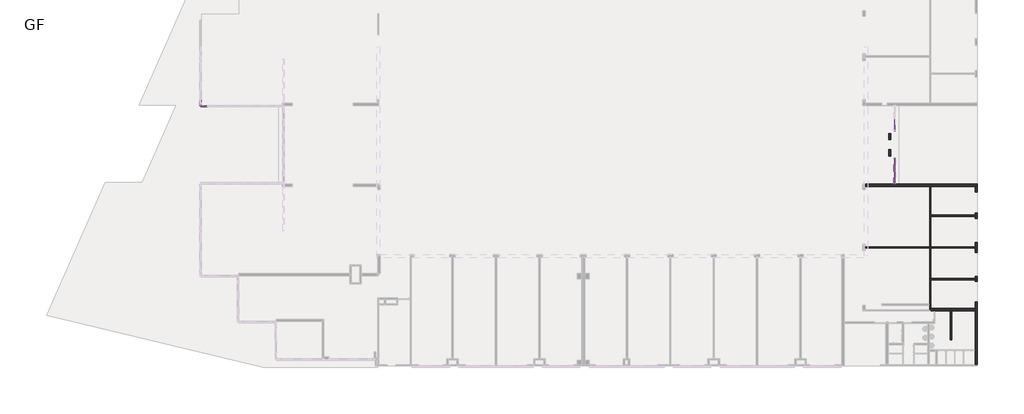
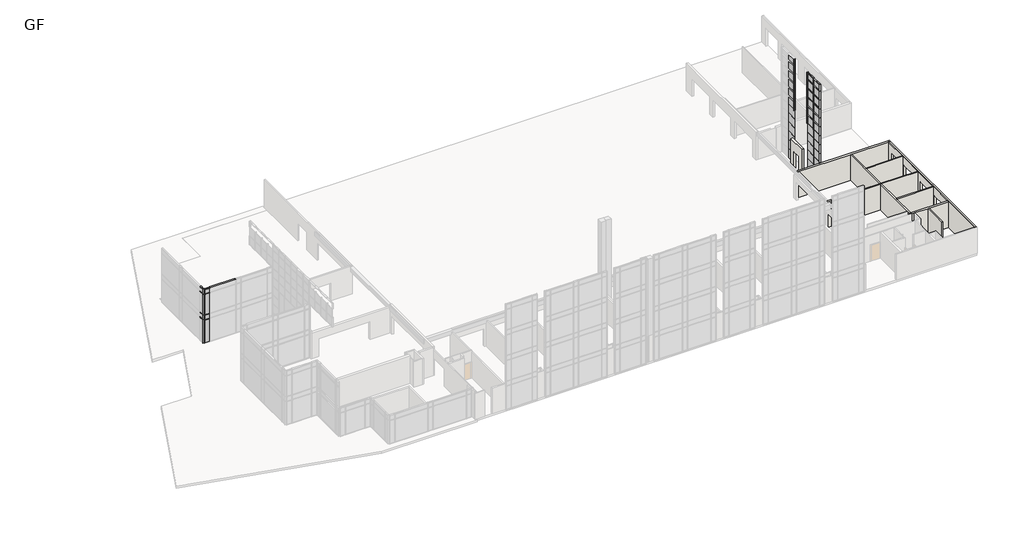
# One storey, part 12 of 23: 55 members, 40 plates, 9 walls.
"""IFC4 building model written with IfcOpenShell, lengths in millimetres."""

from ifc_helpers import new_model, si_unit, frame, origin, place, context, project, spatial, polyline, outline, extrude, faceted_brep, transform, mapped, element, save
from components import rectangular_mullion_50_x_150mm_64d38db8, rectangular_mullion_50_x_150mm_68b3818a, rectangular_mullion_50_x_150mm_6588f46c, rectangular_mullion_50_x_150mm_73a7075e, rectangular_mullion_50_x_150mm_35d6a770, rectangular_mullion_50_x_150mm_d99dc9be, rectangular_mullion_50_x_150mm_3ddb3363, rectangular_mullion_50_x_150mm_b8eab333, rectangular_mullion_50_x_150mm_1f222d30, v_corner_mullion_v_mullion_1_6526e4b7, v_corner_mullion_v_mullion_1_4652a198, v_corner_mullion_v_mullion_1_67d7d202, v_corner_mullion_v_mullion_1_71accf86, system_panel_glazed_24812111, system_panel_glazed_e5239730, system_panel_glazed_a7232eb8, system_panel_glazed_1d396b08, system_panel_glazed_262f750d, system_panel_glazed_e7443a08, system_panel_glazed_fee3e825, system_panel_glazed_f3b0fd96, system_panel_glazed_b53cd975, system_panel_glazed_d327379d, system_panel_glazed_85ae8ed3, system_panel_glazed_ad5ec275

model = new_model("IFC4")

# Units and contexts
model_context = context("Model", 3, world=origin())
ifc_project = project(units=[si_unit("LENGTHUNIT", "METRE", prefix="MILLI")], contexts=[model_context])

# Site, building, storey
site = spatial("IfcSite", under=ifc_project)
building = spatial("IfcBuilding", under=site)
storey = spatial("IfcBuildingStorey", under=building, Name="GF", Elevation=900.0)

# Members
placement = place(None, origin())
rectangular_mullion_50_x_150mm_shape = rectangular_mullion_50_x_150mm_64d38db8(model_context)
element("IfcMember", 1, ObjectType="Rectangular Mullion : 50 x 150mm", at=placement, inside=storey, context=model_context, shape_type="MappedRepresentation", body=[
    mapped(rectangular_mullion_50_x_150mm_shape, transform((-39612.5865899, 1922.3851347, 8200.0), x_axis=(0.0, 0.0, 1.0), y_axis=(-1.0, 0.0, 0.0), z_axis=(0.0, -1.0, 0.0))),
])
element("IfcMember", 2, ObjectType="Rectangular Mullion : 50 x 150mm", at=placement, inside=storey, context=model_context, shape_type="MappedRepresentation", body=[
    mapped(rectangular_mullion_50_x_150mm_shape, transform((-39512.5865899, 1822.3851347, 8200.0), x_axis=(0.0, 0.0, 1.0), y_axis=(0.0, 1.0, 0.0), z_axis=(-1.0, 0.0, 0.0))),
])
rectangular_mullion_50_x_150mm_2_shape = rectangular_mullion_50_x_150mm_68b3818a(model_context)
element("IfcMember", 3, ObjectType="Rectangular Mullion : 50 x 150mm", at=placement, inside=storey, context=model_context, shape_type="MappedRepresentation", body=[
    mapped(rectangular_mullion_50_x_150mm_2_shape, transform((-39512.5865899, 1822.3851347, 7525.0), x_axis=(0.0, 0.0, 1.0), y_axis=(0.0, 1.0, 0.0), z_axis=(-1.0, 0.0, 0.0))),
])
element("IfcMember", 4, ObjectType="Rectangular Mullion : 50 x 150mm", at=placement, inside=storey, context=model_context, shape_type="MappedRepresentation", body=[
    mapped(rectangular_mullion_50_x_150mm_2_shape, transform((-39512.5865899, 1822.3851347, 4075.0), x_axis=(0.0, 0.0, 1.0), y_axis=(0.0, 1.0, 0.0), z_axis=(-1.0, 0.0, 0.0))),
])
element("IfcMember", 5, ObjectType="Rectangular Mullion : 50 x 150mm", at=placement, inside=storey, context=model_context, shape_type="MappedRepresentation", body=[
    mapped(rectangular_mullion_50_x_150mm_2_shape, transform((-39512.5865899, 1822.3851347, 4725.0), x_axis=(0.0, 0.0, 1.0), y_axis=(0.0, 1.0, 0.0), z_axis=(-1.0, 0.0, 0.0))),
])
element("IfcMember", 6, ObjectType="Rectangular Mullion : 50 x 150mm", at=placement, inside=storey, context=model_context, shape_type="MappedRepresentation", body=[
    mapped(rectangular_mullion_50_x_150mm_2_shape, transform((-39612.5865899, 1922.3851347, 7525.0), x_axis=(0.0, 0.0, 1.0), y_axis=(-1.0, 0.0, 0.0), z_axis=(0.0, -1.0, 0.0))),
])
element("IfcMember", 7, ObjectType="Rectangular Mullion : 50 x 150mm", at=placement, inside=storey, context=model_context, shape_type="MappedRepresentation", body=[
    mapped(rectangular_mullion_50_x_150mm_2_shape, transform((-39612.5865899, 1922.3851347, 4725.0), x_axis=(0.0, 0.0, 1.0), y_axis=(-1.0, 0.0, 0.0), z_axis=(0.0, -1.0, 0.0))),
])
element("IfcMember", 8, ObjectType="Rectangular Mullion : 50 x 150mm", at=placement, inside=storey, context=model_context, shape_type="MappedRepresentation", body=[
    mapped(rectangular_mullion_50_x_150mm_2_shape, transform((-39612.5865899, 1922.3851347, 4075.0), x_axis=(0.0, 0.0, 1.0), y_axis=(-1.0, 0.0, 0.0), z_axis=(0.0, -1.0, 0.0))),
])
rectangular_mullion_50_x_150mm_3_shape = rectangular_mullion_50_x_150mm_6588f46c(model_context)
element("IfcMember", 9, ObjectType="Rectangular Mullion : 50 x 150mm", at=placement, inside=storey, context=model_context, shape_type="MappedRepresentation", body=[
    mapped(rectangular_mullion_50_x_150mm_3_shape, transform((34137.4134101, -856.1572845, 10500.0), x_axis=(0.0, -1.0, 0.0), y_axis=(1.0, 0.0, 0.0), z_axis=(0.0, 0.0, 1.0))),
])
element("IfcMember", 10, ObjectType="Rectangular Mullion : 50 x 150mm", at=placement, inside=storey, context=model_context, shape_type="MappedRepresentation", body=[
    mapped(rectangular_mullion_50_x_150mm_3_shape, transform((34137.4134101, -856.1572845, 11700.0), x_axis=(0.0, -1.0, 0.0), y_axis=(1.0, 0.0, 0.0), z_axis=(0.0, 0.0, 1.0))),
])
element("IfcMember", 11, ObjectType="Rectangular Mullion : 50 x 150mm", at=placement, inside=storey, context=model_context, shape_type="MappedRepresentation", body=[
    mapped(rectangular_mullion_50_x_150mm_3_shape, transform((34137.4134101, -856.1572845, 12900.0), x_axis=(0.0, -1.0, 0.0), y_axis=(1.0, 0.0, 0.0), z_axis=(0.0, 0.0, 1.0))),
])
element("IfcMember", 12, ObjectType="Rectangular Mullion : 50 x 150mm", at=placement, inside=storey, context=model_context, shape_type="MappedRepresentation", body=[
    mapped(rectangular_mullion_50_x_150mm_3_shape, transform((34137.4134101, -856.1572845, 14100.0), x_axis=(0.0, -1.0, 0.0), y_axis=(1.0, 0.0, 0.0), z_axis=(0.0, 0.0, 1.0))),
])
rectangular_mullion_50_x_150mm_4_shape = rectangular_mullion_50_x_150mm_73a7075e(model_context)
element("IfcMember", 13, ObjectType="Rectangular Mullion : 50 x 150mm", at=placement, inside=storey, context=model_context, shape_type="MappedRepresentation", body=[
    mapped(rectangular_mullion_50_x_150mm_4_shape, transform((-38862.5865899, 1822.3851347, 8200.0), x_axis=(0.0, 0.0, 1.0), y_axis=(0.0, 1.0, 0.0), z_axis=(-1.0, 0.0, 0.0))),
])
rectangular_mullion_50_x_150mm_5_shape = rectangular_mullion_50_x_150mm_35d6a770(model_context)
element("IfcMember", 14, ObjectType="Rectangular Mullion : 50 x 150mm", at=placement, inside=storey, context=model_context, shape_type="MappedRepresentation", body=[
    mapped(rectangular_mullion_50_x_150mm_5_shape, transform((34137.4134101, -856.1572845, 15000.0), x_axis=(0.0, -1.0, 0.0), y_axis=(1.0, 0.0, 0.0), z_axis=(0.0, 0.0, 1.0))),
])
rectangular_mullion_50_x_150mm_6_shape = rectangular_mullion_50_x_150mm_d99dc9be(model_context)
element("IfcMember", 15, ObjectType="Rectangular Mullion : 50 x 150mm", at=placement, inside=storey, context=model_context, shape_type="MappedRepresentation", body=[
    mapped(rectangular_mullion_50_x_150mm_6_shape, transform((34137.4134101, -5095.1360749, 9300.0), x_axis=(0.0, -1.0, 0.0), y_axis=(-1.0, 0.0, 0.0), z_axis=(0.0, 0.0, -1.0))),
])
element("IfcMember", 16, ObjectType="Rectangular Mullion : 50 x 150mm", at=placement, inside=storey, context=model_context, shape_type="MappedRepresentation", body=[
    mapped(rectangular_mullion_50_x_150mm_6_shape, transform((34137.4134101, -5095.1360749, 10500.0), x_axis=(0.0, -1.0, 0.0), y_axis=(-1.0, 0.0, 0.0), z_axis=(0.0, 0.0, -1.0))),
])
element("IfcMember", 17, ObjectType="Rectangular Mullion : 50 x 150mm", at=placement, inside=storey, context=model_context, shape_type="MappedRepresentation", body=[
    mapped(rectangular_mullion_50_x_150mm_6_shape, transform((34137.4134101, -5095.1360749, 11700.0), x_axis=(0.0, -1.0, 0.0), y_axis=(-1.0, 0.0, 0.0), z_axis=(0.0, 0.0, -1.0))),
])
element("IfcMember", 18, ObjectType="Rectangular Mullion : 50 x 150mm", at=placement, inside=storey, context=model_context, shape_type="MappedRepresentation", body=[
    mapped(rectangular_mullion_50_x_150mm_6_shape, transform((34137.4134101, -5095.1360749, 12900.0), x_axis=(0.0, -1.0, 0.0), y_axis=(-1.0, 0.0, 0.0), z_axis=(0.0, 0.0, -1.0))),
])
rectangular_mullion_50_x_150mm_7_shape = rectangular_mullion_50_x_150mm_3ddb3363(model_context)
element("IfcMember", 19, ObjectType="Rectangular Mullion : 50 x 150mm", at=placement, inside=storey, context=model_context, shape_type="MappedRepresentation", body=[
    mapped(rectangular_mullion_50_x_150mm_7_shape, transform((34137.4134101, -5095.1360749, 14100.0), x_axis=(0.0, -1.0, 0.0), y_axis=(-1.0, 0.0, 0.0), z_axis=(0.0, 0.0, -1.0))),
])
element("IfcMember", 20, ObjectType="Rectangular Mullion : 50 x 150mm", at=placement, inside=storey, context=model_context, shape_type="MappedRepresentation", body=[
    mapped(rectangular_mullion_50_x_150mm_5_shape, transform((34137.4134101, -3719.1572845, 15000.0), x_axis=(0.0, 1.0, 0.0), y_axis=(-1.0, 0.0, 0.0), z_axis=(0.0, 0.0, 1.0))),
])
element("IfcMember", 21, ObjectType="Rectangular Mullion : 50 x 150mm", at=placement, inside=storey, context=model_context, shape_type="MappedRepresentation", body=[
    mapped(rectangular_mullion_50_x_150mm_3_shape, transform((34137.4134101, -3719.1572845, 10500.0), x_axis=(0.0, 1.0, 0.0), y_axis=(-1.0, 0.0, 0.0), z_axis=(0.0, 0.0, 1.0))),
])
element("IfcMember", 22, ObjectType="Rectangular Mullion : 50 x 150mm", at=placement, inside=storey, context=model_context, shape_type="MappedRepresentation", body=[
    mapped(rectangular_mullion_50_x_150mm_3_shape, transform((34137.4134101, -3719.1572845, 11700.0), x_axis=(0.0, 1.0, 0.0), y_axis=(-1.0, 0.0, 0.0), z_axis=(0.0, 0.0, 1.0))),
])
element("IfcMember", 23, ObjectType="Rectangular Mullion : 50 x 150mm", at=placement, inside=storey, context=model_context, shape_type="MappedRepresentation", body=[
    mapped(rectangular_mullion_50_x_150mm_3_shape, transform((34137.4134101, -3719.1572845, 12900.0), x_axis=(0.0, 1.0, 0.0), y_axis=(-1.0, 0.0, 0.0), z_axis=(0.0, 0.0, 1.0))),
])
element("IfcMember", 24, ObjectType="Rectangular Mullion : 50 x 150mm", at=placement, inside=storey, context=model_context, shape_type="MappedRepresentation", body=[
    mapped(rectangular_mullion_50_x_150mm_3_shape, transform((34137.4134101, -3719.1572845, 14100.0), x_axis=(0.0, 1.0, 0.0), y_axis=(-1.0, 0.0, 0.0), z_axis=(0.0, 0.0, 1.0))),
])
element("IfcMember", 25, ObjectType="Rectangular Mullion : 50 x 150mm", at=placement, inside=storey, context=model_context, shape_type="MappedRepresentation", body=[
    mapped(rectangular_mullion_50_x_150mm_3_shape, transform((34137.4134101, -6471.1148653, 9300.0), x_axis=(0.0, -1.0, 0.0), y_axis=(-1.0, 0.0, 0.0), z_axis=(0.0, 0.0, -1.0))),
])
element("IfcMember", 26, ObjectType="Rectangular Mullion : 50 x 150mm", at=placement, inside=storey, context=model_context, shape_type="MappedRepresentation", body=[
    mapped(rectangular_mullion_50_x_150mm_3_shape, transform((34137.4134101, -6471.1148653, 10500.0), x_axis=(0.0, -1.0, 0.0), y_axis=(-1.0, 0.0, 0.0), z_axis=(0.0, 0.0, -1.0))),
])
element("IfcMember", 27, ObjectType="Rectangular Mullion : 50 x 150mm", at=placement, inside=storey, context=model_context, shape_type="MappedRepresentation", body=[
    mapped(rectangular_mullion_50_x_150mm_3_shape, transform((34137.4134101, -6471.1148653, 11700.0), x_axis=(0.0, -1.0, 0.0), y_axis=(-1.0, 0.0, 0.0), z_axis=(0.0, 0.0, -1.0))),
])
element("IfcMember", 28, ObjectType="Rectangular Mullion : 50 x 150mm", at=placement, inside=storey, context=model_context, shape_type="MappedRepresentation", body=[
    mapped(rectangular_mullion_50_x_150mm_3_shape, transform((34137.4134101, -6471.1148653, 12900.0), x_axis=(0.0, -1.0, 0.0), y_axis=(-1.0, 0.0, 0.0), z_axis=(0.0, 0.0, -1.0))),
])
element("IfcMember", 29, ObjectType="Rectangular Mullion : 50 x 150mm", at=placement, inside=storey, context=model_context, shape_type="MappedRepresentation", body=[
    mapped(rectangular_mullion_50_x_150mm_5_shape, transform((34137.4134101, -6471.1148653, 14100.0), x_axis=(0.0, -1.0, 0.0), y_axis=(-1.0, 0.0, 0.0), z_axis=(0.0, 0.0, -1.0))),
])
rectangular_mullion_50_x_150mm_8_shape = rectangular_mullion_50_x_150mm_b8eab333(model_context)
element("IfcMember", 30, ObjectType="Rectangular Mullion : 50 x 150mm", at=placement, inside=storey, context=model_context, shape_type="MappedRepresentation", body=[
    mapped(rectangular_mullion_50_x_150mm_8_shape, transform((34137.4134101, -6421.1148653, 15000.0), x_axis=(0.0, 0.0, 1.0), y_axis=(-1.0, 0.0, 0.0), z_axis=(0.0, -1.0, 0.0))),
])
element("IfcMember", 31, ObjectType="Rectangular Mullion : 50 x 150mm", at=placement, inside=storey, context=model_context, shape_type="MappedRepresentation", body=[
    mapped(rectangular_mullion_50_x_150mm_8_shape, transform((34137.4134101, -5070.1360749, 15000.0), x_axis=(0.0, 0.0, 1.0), y_axis=(-1.0, 0.0, 0.0), z_axis=(0.0, -1.0, 0.0))),
])
rectangular_mullion_50_x_150mm_9_shape = rectangular_mullion_50_x_150mm_1f222d30(model_context)
element("IfcMember", 32, ObjectType="Rectangular Mullion : 50 x 150mm", at=placement, inside=storey, context=model_context, shape_type="MappedRepresentation", body=[
    mapped(rectangular_mullion_50_x_150mm_9_shape, transform((34137.4134101, -5070.1360749, 9300.0), x_axis=(0.0, 0.0, 1.0), y_axis=(-1.0, 0.0, 0.0), z_axis=(0.0, -1.0, 0.0))),
])
element("IfcMember", 33, ObjectType="Rectangular Mullion : 50 x 150mm", at=placement, inside=storey, context=model_context, shape_type="MappedRepresentation", body=[
    mapped(rectangular_mullion_50_x_150mm_9_shape, transform((34137.4134101, -6421.1148653, 9300.0), x_axis=(0.0, 0.0, 1.0), y_axis=(-1.0, 0.0, 0.0), z_axis=(0.0, -1.0, 0.0))),
])
element("IfcMember", 34, ObjectType="Rectangular Mullion : 50 x 150mm", at=placement, inside=storey, context=model_context, shape_type="MappedRepresentation", body=[
    mapped(rectangular_mullion_50_x_150mm_9_shape, transform((34137.4134101, -5070.1360749, 10500.0), x_axis=(0.0, 0.0, 1.0), y_axis=(-1.0, 0.0, 0.0), z_axis=(0.0, -1.0, 0.0))),
])
element("IfcMember", 35, ObjectType="Rectangular Mullion : 50 x 150mm", at=placement, inside=storey, context=model_context, shape_type="MappedRepresentation", body=[
    mapped(rectangular_mullion_50_x_150mm_9_shape, transform((34137.4134101, -6421.1148653, 10500.0), x_axis=(0.0, 0.0, 1.0), y_axis=(-1.0, 0.0, 0.0), z_axis=(0.0, -1.0, 0.0))),
])
element("IfcMember", 36, ObjectType="Rectangular Mullion : 50 x 150mm", at=placement, inside=storey, context=model_context, shape_type="MappedRepresentation", body=[
    mapped(rectangular_mullion_50_x_150mm_9_shape, transform((34137.4134101, -5070.1360749, 11700.0), x_axis=(0.0, 0.0, 1.0), y_axis=(-1.0, 0.0, 0.0), z_axis=(0.0, -1.0, 0.0))),
])
element("IfcMember", 37, ObjectType="Rectangular Mullion : 50 x 150mm", at=placement, inside=storey, context=model_context, shape_type="MappedRepresentation", body=[
    mapped(rectangular_mullion_50_x_150mm_9_shape, transform((34137.4134101, -6421.1148653, 11700.0), x_axis=(0.0, 0.0, 1.0), y_axis=(-1.0, 0.0, 0.0), z_axis=(0.0, -1.0, 0.0))),
])
element("IfcMember", 38, ObjectType="Rectangular Mullion : 50 x 150mm", at=placement, inside=storey, context=model_context, shape_type="MappedRepresentation", body=[
    mapped(rectangular_mullion_50_x_150mm_9_shape, transform((34137.4134101, -5070.1360749, 12900.0), x_axis=(0.0, 0.0, 1.0), y_axis=(-1.0, 0.0, 0.0), z_axis=(0.0, -1.0, 0.0))),
])
element("IfcMember", 39, ObjectType="Rectangular Mullion : 50 x 150mm", at=placement, inside=storey, context=model_context, shape_type="MappedRepresentation", body=[
    mapped(rectangular_mullion_50_x_150mm_9_shape, transform((34137.4134101, -6421.1148653, 12900.0), x_axis=(0.0, 0.0, 1.0), y_axis=(-1.0, 0.0, 0.0), z_axis=(0.0, -1.0, 0.0))),
])
element("IfcMember", 40, ObjectType="Rectangular Mullion : 50 x 150mm", at=placement, inside=storey, context=model_context, shape_type="MappedRepresentation", body=[
    mapped(rectangular_mullion_50_x_150mm_9_shape, transform((34137.4134101, -5070.1360749, 14100.0), x_axis=(0.0, 0.0, 1.0), y_axis=(-1.0, 0.0, 0.0), z_axis=(0.0, -1.0, 0.0))),
])
element("IfcMember", 41, ObjectType="Rectangular Mullion : 50 x 150mm", at=placement, inside=storey, context=model_context, shape_type="MappedRepresentation", body=[
    mapped(rectangular_mullion_50_x_150mm_9_shape, transform((34137.4134101, -6421.1148653, 14100.0), x_axis=(0.0, 0.0, 1.0), y_axis=(-1.0, 0.0, 0.0), z_axis=(0.0, -1.0, 0.0))),
])
element("IfcMember", 42, ObjectType="Rectangular Mullion : 50 x 150mm", at=placement, inside=storey, context=model_context, shape_type="MappedRepresentation", body=[
    mapped(rectangular_mullion_50_x_150mm_3_shape, transform((34137.4134101, -6471.1148653, 900.0), x_axis=(0.0, -1.0, 0.0), y_axis=(-1.0, 0.0, 0.0), z_axis=(0.0, 0.0, -1.0))),
])
element("IfcMember", 43, ObjectType="Rectangular Mullion : 50 x 150mm", at=placement, inside=storey, context=model_context, shape_type="MappedRepresentation", body=[
    mapped(rectangular_mullion_50_x_150mm_3_shape, transform((34137.4134101, -6471.1148653, 2100.0), x_axis=(0.0, -1.0, 0.0), y_axis=(-1.0, 0.0, 0.0), z_axis=(0.0, 0.0, -1.0))),
])
element("IfcMember", 44, ObjectType="Rectangular Mullion : 50 x 150mm", at=placement, inside=storey, context=model_context, shape_type="MappedRepresentation", body=[
    mapped(rectangular_mullion_50_x_150mm_3_shape, transform((34137.4134101, -6471.1148653, 3300.0), x_axis=(0.0, -1.0, 0.0), y_axis=(-1.0, 0.0, 0.0), z_axis=(0.0, 0.0, -1.0))),
])
element("IfcMember", 45, ObjectType="Rectangular Mullion : 50 x 150mm", at=placement, inside=storey, context=model_context, shape_type="MappedRepresentation", body=[
    mapped(rectangular_mullion_50_x_150mm_3_shape, transform((34137.4134101, -856.1572845, 9300.0), x_axis=(0.0, -1.0, 0.0), y_axis=(1.0, 0.0, 0.0), z_axis=(0.0, 0.0, 1.0))),
])
element("IfcMember", 46, ObjectType="Rectangular Mullion : 50 x 150mm", at=placement, inside=storey, context=model_context, shape_type="MappedRepresentation", body=[
    mapped(rectangular_mullion_50_x_150mm_6_shape, transform((34137.4134101, -5095.1360749, 8100.0), x_axis=(0.0, -1.0, 0.0), y_axis=(-1.0, 0.0, 0.0), z_axis=(0.0, 0.0, -1.0))),
])
element("IfcMember", 47, ObjectType="Rectangular Mullion : 50 x 150mm", at=placement, inside=storey, context=model_context, shape_type="MappedRepresentation", body=[
    mapped(rectangular_mullion_50_x_150mm_3_shape, transform((34137.4134101, -3719.1572845, 9300.0), x_axis=(0.0, 1.0, 0.0), y_axis=(-1.0, 0.0, 0.0), z_axis=(0.0, 0.0, 1.0))),
])
element("IfcMember", 48, ObjectType="Rectangular Mullion : 50 x 150mm", at=placement, inside=storey, context=model_context, shape_type="MappedRepresentation", body=[
    mapped(rectangular_mullion_50_x_150mm_3_shape, transform((34137.4134101, -6471.1148653, 4500.0), x_axis=(0.0, -1.0, 0.0), y_axis=(-1.0, 0.0, 0.0), z_axis=(0.0, 0.0, -1.0))),
])
element("IfcMember", 49, ObjectType="Rectangular Mullion : 50 x 150mm", at=placement, inside=storey, context=model_context, shape_type="MappedRepresentation", body=[
    mapped(rectangular_mullion_50_x_150mm_3_shape, transform((34137.4134101, -6471.1148653, 5700.0), x_axis=(0.0, -1.0, 0.0), y_axis=(-1.0, 0.0, 0.0), z_axis=(0.0, 0.0, -1.0))),
])
element("IfcMember", 50, ObjectType="Rectangular Mullion : 50 x 150mm", at=placement, inside=storey, context=model_context, shape_type="MappedRepresentation", body=[
    mapped(rectangular_mullion_50_x_150mm_3_shape, transform((34137.4134101, -6471.1148653, 6900.0), x_axis=(0.0, -1.0, 0.0), y_axis=(-1.0, 0.0, 0.0), z_axis=(0.0, 0.0, -1.0))),
])
element("IfcMember", 51, ObjectType="Rectangular Mullion : 50 x 150mm", at=placement, inside=storey, context=model_context, shape_type="MappedRepresentation", body=[
    mapped(rectangular_mullion_50_x_150mm_3_shape, transform((34137.4134101, -6471.1148653, 8100.0), x_axis=(0.0, -1.0, 0.0), y_axis=(-1.0, 0.0, 0.0), z_axis=(0.0, 0.0, -1.0))),
])
v_corner_mullion_v_mullion_1_shape = v_corner_mullion_v_mullion_1_6526e4b7(model_context)
element("IfcMember", 52, ObjectType="V Corner Mullion : V Mullion 1", at=placement, inside=storey, context=model_context, shape_type="MappedRepresentation", body=[
    mapped(v_corner_mullion_v_mullion_1_shape, transform((-39612.5865899, 1822.3851347, 900.0), x_axis=(0.0, -1.0, 0.0), y_axis=(-1.0, 0.0, 0.0), z_axis=(0.0, 0.0, -1.0))),
])
v_corner_mullion_v_mullion_1_2_shape = v_corner_mullion_v_mullion_1_4652a198(model_context)
element("IfcMember", 53, ObjectType="V Corner Mullion : V Mullion 1", at=placement, inside=storey, context=model_context, shape_type="MappedRepresentation", body=[
    mapped(v_corner_mullion_v_mullion_1_2_shape, transform((-39612.5865899, 1822.3851347, 7525.0), x_axis=(0.0, -1.0, 0.0), y_axis=(-1.0, 0.0, 0.0), z_axis=(0.0, 0.0, -1.0))),
])
v_corner_mullion_v_mullion_1_3_shape = v_corner_mullion_v_mullion_1_67d7d202(model_context)
element("IfcMember", 54, ObjectType="V Corner Mullion : V Mullion 1", at=placement, inside=storey, context=model_context, shape_type="MappedRepresentation", body=[
    mapped(v_corner_mullion_v_mullion_1_3_shape, transform((-39612.5865899, 1822.3851347, 4725.0), x_axis=(0.0, -1.0, 0.0), y_axis=(-1.0, 0.0, 0.0), z_axis=(0.0, 0.0, -1.0))),
])
v_corner_mullion_v_mullion_1_4_shape = v_corner_mullion_v_mullion_1_71accf86(model_context)
element("IfcMember", 55, ObjectType="V Corner Mullion : V Mullion 1", at=placement, inside=storey, context=model_context, shape_type="MappedRepresentation", body=[
    mapped(v_corner_mullion_v_mullion_1_4_shape, transform((-39612.5865899, 1822.3851347, 4075.0), x_axis=(0.0, -1.0, 0.0), y_axis=(-1.0, 0.0, 0.0), z_axis=(0.0, 0.0, -1.0))),
])

# Plates
system_panel_glazed_shape = system_panel_glazed_24812111(model_context)
element("IfcPlate", 56, ObjectType="System Panel : Glazed", at=placement, inside=storey, context=model_context, shape_type="MappedRepresentation", body=[
    mapped(system_panel_glazed_shape, transform((-39212.5865899, 1822.3851347, 7550.0), x_axis=(-1.0, 0.0, 0.0), y_axis=(0.0, -1.0, 0.0), z_axis=(0.0, 0.0, 1.0))),
])
element("IfcPlate", 57, ObjectType="System Panel : Glazed", at=placement, inside=storey, context=model_context, shape_type="MappedRepresentation", body=[
    mapped(system_panel_glazed_shape, transform((-39212.5865899, 1822.3851347, 4100.0), x_axis=(-1.0, 0.0, 0.0), y_axis=(0.0, -1.0, 0.0), z_axis=(0.0, 0.0, 1.0))),
])
system_panel_glazed_2_shape = system_panel_glazed_e5239730(model_context)
element("IfcPlate", 58, ObjectType="System Panel : Glazed", at=placement, inside=storey, context=model_context, shape_type="MappedRepresentation", body=[
    mapped(system_panel_glazed_2_shape, transform((-39212.5865899, 1822.3851347, 4750.0), x_axis=(-1.0, 0.0, 0.0), y_axis=(0.0, -1.0, 0.0), z_axis=(0.0, 0.0, 1.0))),
])
system_panel_glazed_3_shape = system_panel_glazed_a7232eb8(model_context)
element("IfcPlate", 59, ObjectType="System Panel : Glazed", at=placement, inside=storey, context=model_context, shape_type="MappedRepresentation", body=[
    mapped(system_panel_glazed_3_shape, transform((-39212.5865899, 1822.3851347, 950.0), x_axis=(-1.0, 0.0, 0.0), y_axis=(0.0, -1.0, 0.0), z_axis=(0.0, 0.0, 1.0))),
])
system_panel_glazed_4_shape = system_panel_glazed_1d396b08(model_context)
element("IfcPlate", 60, ObjectType="System Panel : Glazed", at=placement, inside=storey, context=model_context, shape_type="MappedRepresentation", body=[
    mapped(system_panel_glazed_4_shape, transform((34137.4134101, -154.8966797, 9325.0), x_axis=(0.0, 1.0, 0.0), y_axis=(-1.0, 0.0, 0.0), z_axis=(0.0, 0.0, 1.0))),
])
element("IfcPlate", 61, ObjectType="System Panel : Glazed", at=placement, inside=storey, context=model_context, shape_type="MappedRepresentation", body=[
    mapped(system_panel_glazed_4_shape, transform((34137.4134101, -154.8966797, 10525.0), x_axis=(0.0, 1.0, 0.0), y_axis=(-1.0, 0.0, 0.0), z_axis=(0.0, 0.0, 1.0))),
])
element("IfcPlate", 62, ObjectType="System Panel : Glazed", at=placement, inside=storey, context=model_context, shape_type="MappedRepresentation", body=[
    mapped(system_panel_glazed_4_shape, transform((34137.4134101, -154.8966797, 11725.0), x_axis=(0.0, 1.0, 0.0), y_axis=(-1.0, 0.0, 0.0), z_axis=(0.0, 0.0, 1.0))),
])
element("IfcPlate", 63, ObjectType="System Panel : Glazed", at=placement, inside=storey, context=model_context, shape_type="MappedRepresentation", body=[
    mapped(system_panel_glazed_4_shape, transform((34137.4134101, -154.8966797, 12925.0), x_axis=(0.0, 1.0, 0.0), y_axis=(-1.0, 0.0, 0.0), z_axis=(0.0, 0.0, 1.0))),
])
system_panel_glazed_5_shape = system_panel_glazed_262f750d(model_context)
element("IfcPlate", 64, ObjectType="System Panel : Glazed", at=placement, inside=storey, context=model_context, shape_type="MappedRepresentation", body=[
    mapped(system_panel_glazed_5_shape, transform((34137.4134101, -154.8966797, 14125.0), x_axis=(0.0, 1.0, 0.0), y_axis=(-1.0, 0.0, 0.0), z_axis=(0.0, 0.0, 1.0))),
])
system_panel_glazed_6_shape = system_panel_glazed_e7443a08(model_context)
element("IfcPlate", 65, ObjectType="System Panel : Glazed", at=placement, inside=storey, context=model_context, shape_type="MappedRepresentation", body=[
    mapped(system_panel_glazed_6_shape, transform((34137.4134101, -4419.6466797, 9325.0), x_axis=(0.0, -1.0, 0.0), y_axis=(1.0, 0.0, 0.0), z_axis=(0.0, 0.0, 1.0))),
])
element("IfcPlate", 66, ObjectType="System Panel : Glazed", at=placement, inside=storey, context=model_context, shape_type="MappedRepresentation", body=[
    mapped(system_panel_glazed_6_shape, transform((34137.4134101, -5770.6254701, 9325.0), x_axis=(0.0, -1.0, 0.0), y_axis=(1.0, 0.0, 0.0), z_axis=(0.0, 0.0, 1.0))),
])
element("IfcPlate", 67, ObjectType="System Panel : Glazed", at=placement, inside=storey, context=model_context, shape_type="MappedRepresentation", body=[
    mapped(system_panel_glazed_6_shape, transform((34137.4134101, -4419.6466797, 10525.0), x_axis=(0.0, -1.0, 0.0), y_axis=(1.0, 0.0, 0.0), z_axis=(0.0, 0.0, 1.0))),
])
element("IfcPlate", 68, ObjectType="System Panel : Glazed", at=placement, inside=storey, context=model_context, shape_type="MappedRepresentation", body=[
    mapped(system_panel_glazed_6_shape, transform((34137.4134101, -5770.6254701, 10525.0), x_axis=(0.0, -1.0, 0.0), y_axis=(1.0, 0.0, 0.0), z_axis=(0.0, 0.0, 1.0))),
])
element("IfcPlate", 69, ObjectType="System Panel : Glazed", at=placement, inside=storey, context=model_context, shape_type="MappedRepresentation", body=[
    mapped(system_panel_glazed_6_shape, transform((34137.4134101, -4419.6466797, 11725.0), x_axis=(0.0, -1.0, 0.0), y_axis=(1.0, 0.0, 0.0), z_axis=(0.0, 0.0, 1.0))),
])
element("IfcPlate", 70, ObjectType="System Panel : Glazed", at=placement, inside=storey, context=model_context, shape_type="MappedRepresentation", body=[
    mapped(system_panel_glazed_6_shape, transform((34137.4134101, -5770.6254701, 11725.0), x_axis=(0.0, -1.0, 0.0), y_axis=(1.0, 0.0, 0.0), z_axis=(0.0, 0.0, 1.0))),
])
element("IfcPlate", 71, ObjectType="System Panel : Glazed", at=placement, inside=storey, context=model_context, shape_type="MappedRepresentation", body=[
    mapped(system_panel_glazed_6_shape, transform((34137.4134101, -4419.6466797, 12925.0), x_axis=(0.0, -1.0, 0.0), y_axis=(1.0, 0.0, 0.0), z_axis=(0.0, 0.0, 1.0))),
])
element("IfcPlate", 72, ObjectType="System Panel : Glazed", at=placement, inside=storey, context=model_context, shape_type="MappedRepresentation", body=[
    mapped(system_panel_glazed_6_shape, transform((34137.4134101, -5770.6254701, 12925.0), x_axis=(0.0, -1.0, 0.0), y_axis=(1.0, 0.0, 0.0), z_axis=(0.0, 0.0, 1.0))),
])
system_panel_glazed_7_shape = system_panel_glazed_fee3e825(model_context)
element("IfcPlate", 73, ObjectType="System Panel : Glazed", at=placement, inside=storey, context=model_context, shape_type="MappedRepresentation", body=[
    mapped(system_panel_glazed_7_shape, transform((34137.4134101, -4419.6466797, 14125.0), x_axis=(0.0, -1.0, 0.0), y_axis=(1.0, 0.0, 0.0), z_axis=(0.0, 0.0, 1.0))),
])
element("IfcPlate", 74, ObjectType="System Panel : Glazed", at=placement, inside=storey, context=model_context, shape_type="MappedRepresentation", body=[
    mapped(system_panel_glazed_7_shape, transform((34137.4134101, -5770.6254701, 14125.0), x_axis=(0.0, -1.0, 0.0), y_axis=(1.0, 0.0, 0.0), z_axis=(0.0, 0.0, 1.0))),
])
system_panel_glazed_8_shape = system_panel_glazed_f3b0fd96(model_context)
element("IfcPlate", 75, ObjectType="System Panel : Glazed", at=placement, inside=storey, context=model_context, shape_type="MappedRepresentation", body=[
    mapped(system_panel_glazed_8_shape, transform((34137.4134101, -167.3966797, 900.0), x_axis=(0.0, 1.0, 0.0), y_axis=(-1.0, 0.0, 0.0), z_axis=(0.0, 0.0, 1.0))),
])
element("IfcPlate", 76, ObjectType="System Panel : Glazed", at=placement, inside=storey, context=model_context, shape_type="MappedRepresentation", body=[
    mapped(system_panel_glazed_8_shape, transform((34137.4134101, -167.3966797, 2100.0), x_axis=(0.0, 1.0, 0.0), y_axis=(-1.0, 0.0, 0.0), z_axis=(0.0, 0.0, 1.0))),
])
element("IfcPlate", 77, ObjectType="System Panel : Glazed", at=placement, inside=storey, context=model_context, shape_type="MappedRepresentation", body=[
    mapped(system_panel_glazed_8_shape, transform((34137.4134101, -167.3966797, 3300.0), x_axis=(0.0, 1.0, 0.0), y_axis=(-1.0, 0.0, 0.0), z_axis=(0.0, 0.0, 1.0))),
])
element("IfcPlate", 78, ObjectType="System Panel : Glazed", at=placement, inside=storey, context=model_context, shape_type="MappedRepresentation", body=[
    mapped(system_panel_glazed_8_shape, transform((34137.4134101, -167.3966797, 4500.0), x_axis=(0.0, 1.0, 0.0), y_axis=(-1.0, 0.0, 0.0), z_axis=(0.0, 0.0, 1.0))),
])
element("IfcPlate", 79, ObjectType="System Panel : Glazed", at=placement, inside=storey, context=model_context, shape_type="MappedRepresentation", body=[
    mapped(system_panel_glazed_8_shape, transform((34137.4134101, -167.3966797, 5700.0), x_axis=(0.0, 1.0, 0.0), y_axis=(-1.0, 0.0, 0.0), z_axis=(0.0, 0.0, 1.0))),
])
element("IfcPlate", 80, ObjectType="System Panel : Glazed", at=placement, inside=storey, context=model_context, shape_type="MappedRepresentation", body=[
    mapped(system_panel_glazed_8_shape, transform((34137.4134101, -167.3966797, 6900.0), x_axis=(0.0, 1.0, 0.0), y_axis=(-1.0, 0.0, 0.0), z_axis=(0.0, 0.0, 1.0))),
])
system_panel_glazed_9_shape = system_panel_glazed_b53cd975(model_context)
element("IfcPlate", 81, ObjectType="System Panel : Glazed", at=placement, inside=storey, context=model_context, shape_type="MappedRepresentation", body=[
    mapped(system_panel_glazed_9_shape, transform((34137.4134101, -154.8966797, 8100.0), x_axis=(0.0, 1.0, 0.0), y_axis=(-1.0, 0.0, 0.0), z_axis=(0.0, 0.0, 1.0))),
])
system_panel_glazed_10_shape = system_panel_glazed_d327379d(model_context)
element("IfcPlate", 82, ObjectType="System Panel : Glazed", at=placement, inside=storey, context=model_context, shape_type="MappedRepresentation", body=[
    mapped(system_panel_glazed_10_shape, transform((34137.4134101, -4407.1466797, 900.0), x_axis=(0.0, -1.0, 0.0), y_axis=(1.0, 0.0, 0.0), z_axis=(0.0, 0.0, 1.0))),
])
element("IfcPlate", 83, ObjectType="System Panel : Glazed", at=placement, inside=storey, context=model_context, shape_type="MappedRepresentation", body=[
    mapped(system_panel_glazed_10_shape, transform((34137.4134101, -4407.1466797, 2100.0), x_axis=(0.0, -1.0, 0.0), y_axis=(1.0, 0.0, 0.0), z_axis=(0.0, 0.0, 1.0))),
])
element("IfcPlate", 84, ObjectType="System Panel : Glazed", at=placement, inside=storey, context=model_context, shape_type="MappedRepresentation", body=[
    mapped(system_panel_glazed_10_shape, transform((34137.4134101, -4407.1466797, 3300.0), x_axis=(0.0, -1.0, 0.0), y_axis=(1.0, 0.0, 0.0), z_axis=(0.0, 0.0, 1.0))),
])
element("IfcPlate", 85, ObjectType="System Panel : Glazed", at=placement, inside=storey, context=model_context, shape_type="MappedRepresentation", body=[
    mapped(system_panel_glazed_10_shape, transform((34137.4134101, -4407.1466797, 4500.0), x_axis=(0.0, -1.0, 0.0), y_axis=(1.0, 0.0, 0.0), z_axis=(0.0, 0.0, 1.0))),
])
element("IfcPlate", 86, ObjectType="System Panel : Glazed", at=placement, inside=storey, context=model_context, shape_type="MappedRepresentation", body=[
    mapped(system_panel_glazed_10_shape, transform((34137.4134101, -4407.1466797, 5700.0), x_axis=(0.0, -1.0, 0.0), y_axis=(1.0, 0.0, 0.0), z_axis=(0.0, 0.0, 1.0))),
])
element("IfcPlate", 87, ObjectType="System Panel : Glazed", at=placement, inside=storey, context=model_context, shape_type="MappedRepresentation", body=[
    mapped(system_panel_glazed_10_shape, transform((34137.4134101, -4407.1466797, 6900.0), x_axis=(0.0, -1.0, 0.0), y_axis=(1.0, 0.0, 0.0), z_axis=(0.0, 0.0, 1.0))),
])
system_panel_glazed_11_shape = system_panel_glazed_85ae8ed3(model_context)
element("IfcPlate", 88, ObjectType="System Panel : Glazed", at=placement, inside=storey, context=model_context, shape_type="MappedRepresentation", body=[
    mapped(system_panel_glazed_11_shape, transform((34137.4134101, -5758.1254701, 900.0), x_axis=(0.0, -1.0, 0.0), y_axis=(1.0, 0.0, 0.0), z_axis=(0.0, 0.0, 1.0))),
])
element("IfcPlate", 89, ObjectType="System Panel : Glazed", at=placement, inside=storey, context=model_context, shape_type="MappedRepresentation", body=[
    mapped(system_panel_glazed_11_shape, transform((34137.4134101, -5758.1254701, 2100.0), x_axis=(0.0, -1.0, 0.0), y_axis=(1.0, 0.0, 0.0), z_axis=(0.0, 0.0, 1.0))),
])
element("IfcPlate", 90, ObjectType="System Panel : Glazed", at=placement, inside=storey, context=model_context, shape_type="MappedRepresentation", body=[
    mapped(system_panel_glazed_11_shape, transform((34137.4134101, -5758.1254701, 3300.0), x_axis=(0.0, -1.0, 0.0), y_axis=(1.0, 0.0, 0.0), z_axis=(0.0, 0.0, 1.0))),
])
element("IfcPlate", 91, ObjectType="System Panel : Glazed", at=placement, inside=storey, context=model_context, shape_type="MappedRepresentation", body=[
    mapped(system_panel_glazed_11_shape, transform((34137.4134101, -5758.1254701, 4500.0), x_axis=(0.0, -1.0, 0.0), y_axis=(1.0, 0.0, 0.0), z_axis=(0.0, 0.0, 1.0))),
])
element("IfcPlate", 92, ObjectType="System Panel : Glazed", at=placement, inside=storey, context=model_context, shape_type="MappedRepresentation", body=[
    mapped(system_panel_glazed_11_shape, transform((34137.4134101, -5758.1254701, 5700.0), x_axis=(0.0, -1.0, 0.0), y_axis=(1.0, 0.0, 0.0), z_axis=(0.0, 0.0, 1.0))),
])
element("IfcPlate", 93, ObjectType="System Panel : Glazed", at=placement, inside=storey, context=model_context, shape_type="MappedRepresentation", body=[
    mapped(system_panel_glazed_11_shape, transform((34137.4134101, -5758.1254701, 6900.0), x_axis=(0.0, -1.0, 0.0), y_axis=(1.0, 0.0, 0.0), z_axis=(0.0, 0.0, 1.0))),
])
system_panel_glazed_12_shape = system_panel_glazed_ad5ec275(model_context)
element("IfcPlate", 94, ObjectType="System Panel : Glazed", at=placement, inside=storey, context=model_context, shape_type="MappedRepresentation", body=[
    mapped(system_panel_glazed_12_shape, transform((34137.4134101, -4419.6466797, 8100.0), x_axis=(0.0, -1.0, 0.0), y_axis=(1.0, 0.0, 0.0), z_axis=(0.0, 0.0, 1.0))),
])
element("IfcPlate", 95, ObjectType="System Panel : Glazed", at=placement, inside=storey, context=model_context, shape_type="MappedRepresentation", body=[
    mapped(system_panel_glazed_12_shape, transform((34137.4134101, -5770.6254701, 8100.0), x_axis=(0.0, -1.0, 0.0), y_axis=(1.0, 0.0, 0.0), z_axis=(0.0, 0.0, 1.0))),
])

# Walls
element("IfcWall", 96, ObjectType="wall-115", at=placement, inside=storey, context=model_context, shape_type="Brep", body=[
    faceted_brep([(38031.9134101, -19845.6148653, 900.0), (38031.9134101, -19727.6148653, 900.0), (38031.9134101, -16667.1148653, 900.0), (38031.9134101, -16525.1148653, 900.0), (38031.9134101, -13292.1148653, 900.0), (38031.9134101, -13150.1148653, 900.0), (38031.9134101, -9917.1148653, 900.0), (38031.9134101, -9775.1148653, 900.0), (38031.9134101, -6714.6148653, 900.0), (38031.9134101, -6714.6148653, 4375.0), (38031.9134101, -9775.1148653, 4375.0), (38031.9134101, -9917.1148653, 4375.0), (38031.9134101, -13150.1148653, 4375.0), (38031.9134101, -13292.1148653, 4375.0), (38031.9134101, -16525.1148653, 4375.0), (38031.9134101, -16667.1148653, 4375.0), (38031.9134101, -19727.6148653, 4375.0), (38031.9134101, -19845.6148653, 4375.0), (37889.9134101, -19845.6148653, 900.0), (37889.9134101, -19845.6148653, 4375.0), (37889.9134101, -19387.6148653, 4375.0), (37889.9134101, -19245.6148653, 4375.0), (37889.9134101, -13292.1148653, 4375.0), (37889.9134101, -13150.1148653, 4375.0), (37889.9134101, -6714.6148653, 4375.0), (37889.9134101, -6714.6148653, 900.0), (37889.9134101, -13150.1148653, 900.0), (37889.9134101, -13292.1148653, 900.0), (37889.9134101, -19245.6148653, 900.0), (37889.9134101, -19387.6148653, 900.0)], [[[0, 1, 2, 3, 4, 5, 6, 7, 8, 9, 10, 11, 12, 13, 14, 15, 16, 17]], [[18, 19, 20, 21, 22, 23, 24, 25, 26, 27, 28, 29]], [[8, 7, 6, 5, 4, 3, 2, 1, 0, 18, 29, 28, 27, 26, 25]], [[0, 17, 19, 18]], [[9, 8, 25, 24]], [[17, 16, 15, 14, 13, 12, 11, 10, 9, 24, 23, 22, 21, 20, 19]]]),
])
element("IfcWall", 97, ObjectType="wall-115", at=placement, inside=storey, context=model_context, shape_type="SweptSolid", body=[
    extrude(outline(polyline([(42717.4134101, -9917.1148653), (38031.9134101, -9917.1148653), (38031.9134101, -9775.1148653), (42717.4134101, -9775.1148653), (42717.4134101, -9917.1148653)])), frame((0.0, 0.0, 900.0), z_axis=(0.0, 0.0, 1.0), x_axis=(1.0, 0.0, 0.0)), (0.0, 0.0, 1.0), 3475.0),
])
element("IfcWall", 98, ObjectType="wall-115", at=placement, inside=storey, context=model_context, shape_type="SweptSolid", body=[
    extrude(outline(polyline([(31029.4134101, -13292.1148653), (31029.4134101, -13150.1148653), (37889.9134101, -13150.1148653), (37889.9134101, -13292.1148653), (31029.4134101, -13292.1148653)])), frame((0.0, 0.0, 900.0), z_axis=(0.0, 0.0, 1.0), x_axis=(1.0, 0.0, 0.0)), (0.0, 0.0, 1.0), 3475.0),
    extrude(outline(polyline([(42717.4134101, -13150.1148653), (42717.4134101, -13292.1148653), (38031.9134101, -13292.1148653), (38031.9134101, -13150.1148653), (42717.4134101, -13150.1148653)])), frame((0.0, 0.0, 900.0), z_axis=(0.0, 0.0, 1.0), x_axis=(1.0, 0.0, 0.0)), (0.0, 0.0, 1.0), 3475.0),
])
element("IfcWall", 99, ObjectType="wall-115", at=placement, inside=storey, context=model_context, shape_type="SweptSolid", body=[
    extrude(outline(polyline([(42717.4134101, -16667.1148653), (38031.9134101, -16667.1148653), (38031.9134101, -16525.1148653), (42717.4134101, -16525.1148653), (42717.4134101, -16667.1148653)])), frame((0.0, 0.0, 900.0), z_axis=(0.0, 0.0, 1.0), x_axis=(1.0, 0.0, 0.0)), (0.0, 0.0, 1.0), 3475.0),
])
element("IfcWall", 100, ObjectType="wall-115", at=placement, inside=storey, context=model_context, shape_type="SweptSolid", body=[
    extrude(outline(polyline([(40244.8019347, -19984.6148653), (40244.8019347, -23027.6148653), (40102.8019347, -23027.6148653), (40102.8019347, -19984.6148653), (40244.8019347, -19984.6148653)])), frame((0.0, 0.0, 900.0), z_axis=(0.0, 0.0, 1.0), x_axis=(1.0, 0.0, 0.0)), (0.0, 0.0, 1.0), 3475.0),
])
element("IfcWall", 101, ObjectType="wall-230", at=placement, inside=storey, context=model_context, shape_type="Brep", body=[
    faceted_brep([(38031.9134101, -19984.6148653, 4375.0), (38031.9134101, -19984.6148653, 900.0), (38292.4134101, -19984.6148653, 900.0), (38292.4134101, -19984.6148653, 3050.0), (38434.4134101, -19984.6148653, 3050.0), (38434.4134101, -19984.6148653, 900.0), (40102.8019347, -19984.6148653, 900.0), (40244.8019347, -19984.6148653, 900.0), (42717.4134101, -19984.6148653, 900.0), (42717.4134101, -19984.6148653, 4375.0), (40244.8019347, -19984.6148653, 4375.0), (40102.8019347, -19984.6148653, 4375.0), (38434.4134101, -19984.6148653, 4375.0), (38292.4134101, -19984.6148653, 4375.0), (42717.4134101, -19727.6148653, 900.0), (38031.9134101, -19727.6148653, 900.0), (38031.9134101, -19727.6148653, 4375.0), (42717.4134101, -19727.6148653, 4375.0), (38434.4134101, -19972.6148653, 900.0), (38292.4134101, -19972.6148653, 900.0), (38031.9134101, -19845.6148653, 900.0), (38031.9134101, -19845.6148653, 4375.0), (38434.4134101, -19972.6148653, 3050.0), (38292.4134101, -19972.6148653, 3050.0)], [[[0, 1, 2, 3, 4, 5, 6, 7, 8, 9, 10, 11, 12, 13]], [[14, 15, 16, 17]], [[15, 14, 8, 7, 6, 5, 18, 19, 2, 1, 20]], [[1, 0, 21, 16, 15, 20]], [[9, 8, 14, 17]], [[0, 13, 12, 11, 10, 9, 17, 16, 21]], [[22, 18, 5, 4]], [[19, 23, 3, 2]], [[18, 22, 23, 19]], [[23, 22, 4, 3]]]),
])
element("IfcWall", 102, ObjectType="wall-230", at=placement, inside=storey, context=model_context, shape_type="Brep", body=[
    faceted_brep([(31029.4134101, -6714.6148653, 900.0), (37889.9134101, -6714.6148653, 900.0), (38031.9134101, -6714.6148653, 900.0), (42717.4134101, -6714.6148653, 900.0), (42974.4134101, -6714.6148653, 900.0), (42974.4134101, -6714.6148653, 4375.0), (42827.4134101, -6714.6148653, 4375.0), (42717.4134101, -6714.6148653, 4375.0), (38031.9134101, -6714.6148653, 4375.0), (37889.9134101, -6714.6148653, 4375.0), (31029.4134101, -6714.6148653, 4375.0), (31029.4134101, -6457.6148653, 900.0), (31029.4134101, -6457.6148653, 4025.0), (31029.4134101, -6457.6148653, 4375.0), (34077.4134101, -6457.6148653, 4375.0), (42827.4134101, -6457.6148653, 4375.0), (42974.4134101, -6457.6148653, 4375.0), (42974.4134101, -6457.6148653, 900.0)], [[[0, 1, 2, 3, 4, 5, 6, 7, 8, 9, 10]], [[11, 12, 13, 14, 15, 16, 17]], [[4, 3, 2, 1, 0, 11, 17]], [[5, 4, 17, 16]], [[0, 10, 13, 12, 11]], [[6, 5, 16, 15]], [[10, 9, 8, 7, 6, 15, 14, 13]]]),
])
element("IfcWall", 103, ObjectType="wall-230", at=placement, inside=storey, context=model_context, shape_type="Brep", body=[
    faceted_brep([(42974.4134101, -16851.4069212, 3300.0), (42974.4134101, -16851.4069212, 900.0), (42974.4134101, -16310.1148653, 900.0), (42974.4134101, -16310.1148653, 3300.0), (42974.4134101, -13751.4069212, 3300.0), (42974.4134101, -13751.4069212, 900.0), (42974.4134101, -12693.8228094, 900.0), (42974.4134101, -12693.8228094, 3300.0), (42974.4134101, -10135.1148653, 3300.0), (42974.4134101, -10135.1148653, 900.0), (42974.4134101, -9560.1148653, 900.0), (42974.4134101, -9560.1148653, 3300.0), (42974.4134101, -7303.1148653, 3300.0), (42974.4134101, -7303.1148653, 900.0), (42974.4134101, -6714.6148653, 900.0), (42974.4134101, -6714.6148653, 4375.0), (42974.4134101, -25692.6148653, 4375.0), (42974.4134101, -25692.6148653, 900.0), (42974.4134101, -18990.0585695, 900.0), (42974.4134101, -18990.0585695, 3300.0), (42717.4134101, -16310.1148653, 900.0), (42717.4134101, -16525.1148653, 900.0), (42717.4134101, -16667.1148653, 900.0), (42717.4134101, -16851.4069212, 900.0), (42717.4134101, -16851.4069212, 3300.0), (42717.4134101, -18990.0585695, 3300.0), (42717.4134101, -18990.0585695, 900.0), (42717.4134101, -19727.6148653, 900.0), (42717.4134101, -19984.6148653, 900.0), (42717.4134101, -24127.6148653, 900.0), (42717.4134101, -24177.6148653, 900.0), (42717.4134101, -25692.6148653, 900.0), (42717.4134101, -25692.6148653, 4375.0), (42717.4134101, -19984.6148653, 4375.0), (42717.4134101, -19727.6148653, 4375.0), (42717.4134101, -16667.1148653, 4375.0), (42717.4134101, -16525.1148653, 4375.0), (42717.4134101, -13292.1148653, 4375.0), (42717.4134101, -13150.1148653, 4375.0), (42717.4134101, -9917.1148653, 4375.0), (42717.4134101, -9775.1148653, 4375.0), (42717.4134101, -6714.6148653, 4375.0), (42717.4134101, -6714.6148653, 900.0), (42717.4134101, -7303.1148653, 900.0), (42717.4134101, -7303.1148653, 3300.0), (42717.4134101, -9560.1148653, 3300.0), (42717.4134101, -9560.1148653, 900.0), (42717.4134101, -9775.1148653, 900.0), (42717.4134101, -9917.1148653, 900.0), (42717.4134101, -10135.1148653, 900.0), (42717.4134101, -10135.1148653, 3300.0), (42717.4134101, -12693.8228094, 3300.0), (42717.4134101, -12693.8228094, 900.0), (42717.4134101, -13150.1148653, 900.0), (42717.4134101, -13292.1148653, 900.0), (42717.4134101, -13751.4069212, 900.0), (42717.4134101, -13751.4069212, 3300.0), (42717.4134101, -16310.1148653, 3300.0), (42827.4134101, -25692.6148653, 4375.0), (42827.4134101, -6714.6148653, 4375.0)], [[[0, 1, 2, 3, 4, 5, 6, 7, 8, 9, 10, 11, 12, 13, 14, 15, 16, 17, 18, 19]], [[20, 21, 22, 23, 24, 25, 26, 27, 28, 29, 30, 31, 32, 33, 34, 35, 36, 37, 38, 39, 40, 41, 42, 43, 44, 45, 46, 47, 48, 49, 50, 51, 52, 53, 54, 55, 56, 57]], [[10, 9, 49, 48, 47, 46]], [[43, 42, 14, 13]], [[6, 5, 55, 54, 53, 52]], [[2, 1, 23, 22, 21, 20]], [[18, 17, 31, 30, 29, 28, 27, 26]], [[17, 16, 58, 32, 31]], [[15, 14, 42, 41, 59]], [[16, 15, 59, 58]], [[59, 41, 40, 39, 38, 37, 36, 35, 34, 33, 32, 58]], [[12, 11, 45, 44]], [[13, 12, 44, 43]], [[11, 10, 46, 45]], [[51, 50, 8, 7]], [[52, 51, 7, 6]], [[50, 49, 9, 8]], [[57, 56, 4, 3]], [[20, 57, 3, 2]], [[56, 55, 5, 4]], [[25, 24, 0, 19]], [[26, 25, 19, 18]], [[24, 23, 1, 0]]]),
])
element("IfcWall", 104, ObjectType="wall-230", at=placement, inside=storey, context=model_context, shape_type="SweptSolid", body=[
    extrude(outline(polyline([(-3475.6572845, 4650.0), (-1099.6572845, 4650.0), (-1099.6572845, 900.0), (-1762.6572845, 900.0), (-1762.6572845, 3300.0), (-2812.6572845, 3300.0), (-2812.6572845, 900.0), (-3475.6572845, 900.0), (-3475.6572845, 4650.0)])), frame((33520.4134101, 0.0, 0.0), z_axis=(1.0, 0.0, 0.0), x_axis=(0.0, 1.0, 0.0)), (0.0, 0.0, 1.0), 257.0),
])

save(model, "model.ifc")
